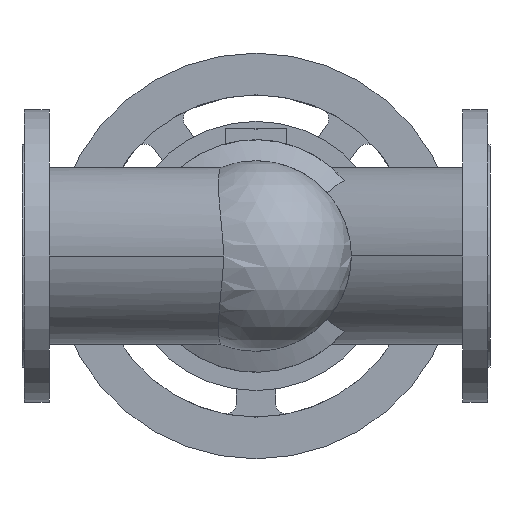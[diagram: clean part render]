
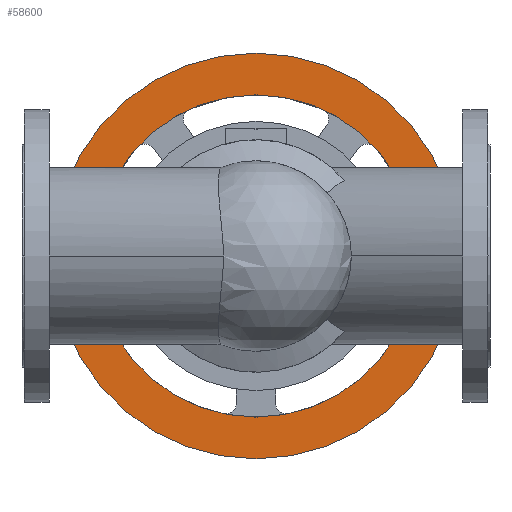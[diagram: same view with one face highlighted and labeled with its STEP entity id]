
A CAD part, front view. The second image highlights one B-rep face of the part: STEP entity #58600.
In plain terms, the highlighted planar face has unit normal (0, -1, 0).
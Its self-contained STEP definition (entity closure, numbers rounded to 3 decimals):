
#57360=CARTESIAN_POINT('',(506.5,699.8,0.));
#57370=VERTEX_POINT('',#57360);
#58210=CARTESIAN_POINT('',(93.5,699.8,0.));
#58220=VERTEX_POINT('',#58210);
#58250=CARTESIAN_POINT('',(300.,699.8,0.));
#58260=DIRECTION('',(0.,1.,0.));
#58270=DIRECTION('',(1.,0.,0.));
#58280=AXIS2_PLACEMENT_3D('',#58250,#58260,#58270);
#58290=CIRCLE('',#58280,206.5);
#58300=EDGE_CURVE('',#58220,#57370,#58290,.T.);
#58350=CARTESIAN_POINT('',(533.25,699.8,0.));
#58360=DIRECTION('',(0.,-1.,0.));
#58370=DIRECTION('',(-1.,0.,0.));
#58380=AXIS2_PLACEMENT_3D('',#58350,#58360,#58370);
#58390=PLANE('',#58380);
#58400=CARTESIAN_POINT('',(300.,699.8,0.));
#58410=DIRECTION('',(0.,1.,0.));
#58420=DIRECTION('',(1.,0.,0.));
#58430=AXIS2_PLACEMENT_3D('',#58400,#58410,#58420);
#58440=CIRCLE('',#58430,260.);
#58450=CARTESIAN_POINT('',(560.,699.8,0.));
#58460=VERTEX_POINT('',#58450);
#58470=CARTESIAN_POINT('',(40.,699.8,0.));
#58480=VERTEX_POINT('',#58470);
#58490=EDGE_CURVE('',#58460,#58480,#58440,.T.);
#58500=ORIENTED_EDGE('',*,*,#58490,.F.);
#58510=EDGE_CURVE('',#58480,#58460,#58440,.T.);
#58520=ORIENTED_EDGE('',*,*,#58510,.F.);
#58530=EDGE_LOOP('',(#58520,#58500));
#58540=FACE_OUTER_BOUND('',#58530,.T.);
#58550=EDGE_CURVE('',#57370,#58220,#58290,.T.);
#58560=ORIENTED_EDGE('',*,*,#58550,.T.);
#58570=ORIENTED_EDGE('',*,*,#58300,.T.);
#58580=EDGE_LOOP('',(#58570,#58560));
#58590=FACE_BOUND('',#58580,.T.);
#58600=ADVANCED_FACE('',(#58540,#58590),#58390,.T.);
